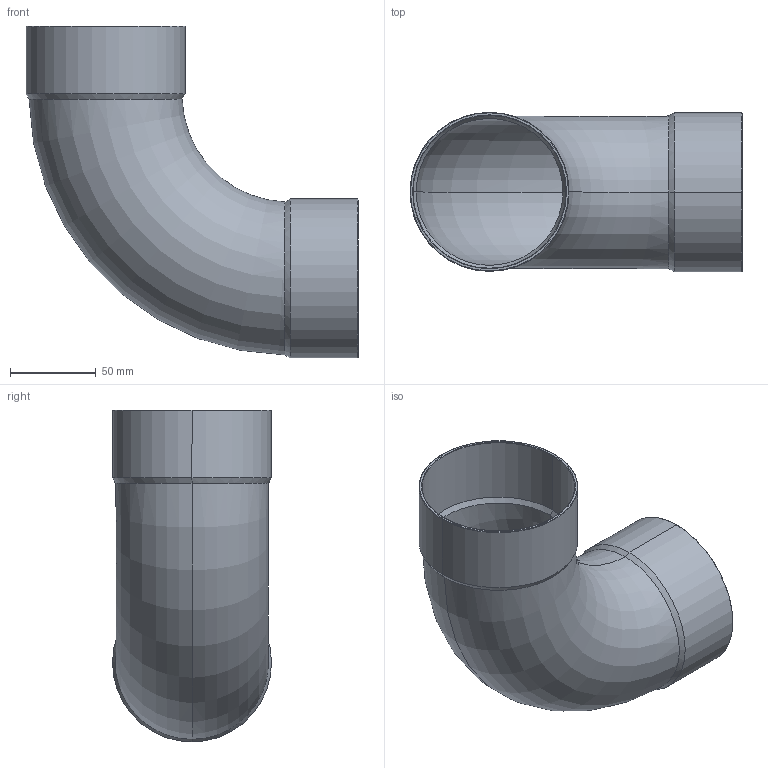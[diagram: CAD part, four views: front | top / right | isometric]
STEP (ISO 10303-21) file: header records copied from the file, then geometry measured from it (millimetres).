
FILE_DESCRIPTION((''),'2;1');
FILE_NAME('D:\5002\15002a89.stp','2005-10-04T13:00:27',('Kris'),(''),'Autodesk Inventor 8','Autodesk Inventor 8','');
FILE_SCHEMA(('AUTOMOTIVE_DESIGN { 1 0 10303 214 1 1 1 1 }'));
Length unit declared in the file: millimetre
Products named in the file (1): 15002a89
Bounding box: 193.3 x 92.6 x 193.3 mm (x, y, z)
Volume: 124460.9 mm3; surface area: 139172.4 mm2
Topology: 1 solids, 1 shells, 30 faces, 60 edges, 32 vertices
Faces by surface type: cone 12, bspline 9, torus 4, cylinder 4, plane 1
Entity records: 1027 total; most frequent: CARTESIAN_POINT 414, DIRECTION 124, ORIENTED_EDGE 120, EDGE_CURVE 60, AXIS2_PLACEMENT_3D 50, VERTEX_POINT 32, EDGE_LOOP 32, FACE_OUTER_BOUND 30
